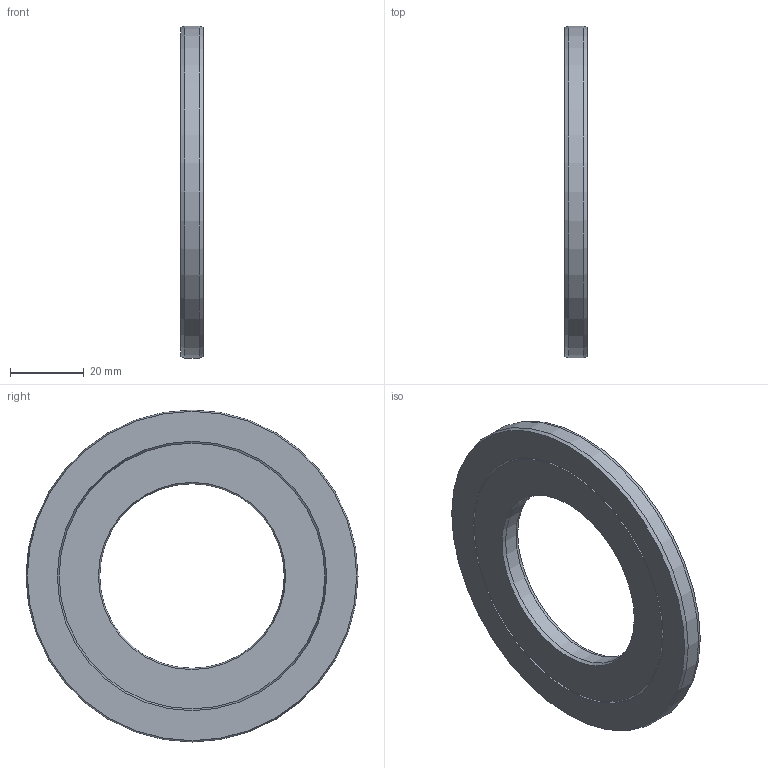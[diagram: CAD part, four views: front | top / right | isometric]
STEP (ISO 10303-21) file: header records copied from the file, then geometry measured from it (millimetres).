
FILE_DESCRIPTION(/* description */ (''),/* implementation_level */ '2;1');
FILE_NAME(/* name */ '306827 CF 6210 A0.stp',/* time_stamp */ '2016-12-16T11:09:35+01:00',/* author */ (''),/* organization */ (''),/* preprocessor_version */ 'ST-DEVELOPER v15',/* originating_system */ 'SIEMENS PLM Software NX 8.5',/* authorisation */ '');
FILE_SCHEMA (('CONFIG_CONTROL_DESIGN'));
Length unit declared in the file: millimetre
Products named in the file (1): ATE0000139_01
Bounding box: 6 x 90 x 90 mm (x, y, z)
Volume: 24681.5 mm3; surface area: 17149.5 mm2
Topology: 2 solids, 2 shells, 26 faces, 46 edges, 28 vertices
Faces by surface type: cone 10, plane 8, cylinder 8
Full cylindrical faces by diameter (mm): 50 x1, 60.5 x1, 61.5 x1, 63 x1, 64 x1, 72 x1, 73 x1, 90 x1
Entity records: 614 total; most frequent: DIRECTION 106, CARTESIAN_POINT 79, AXIS2_PLACEMENT_3D 53, FACE_BOUND 52, EDGE_LOOP 52, ORIENTED_EDGE 52, ADVANCED_FACE 26, VERTEX_POINT 26
